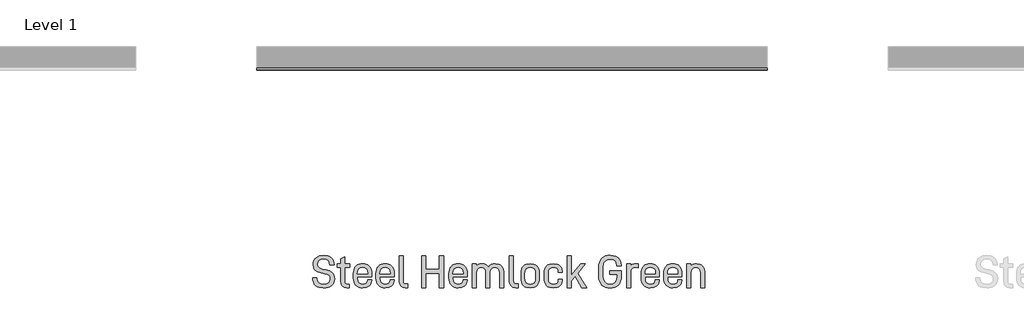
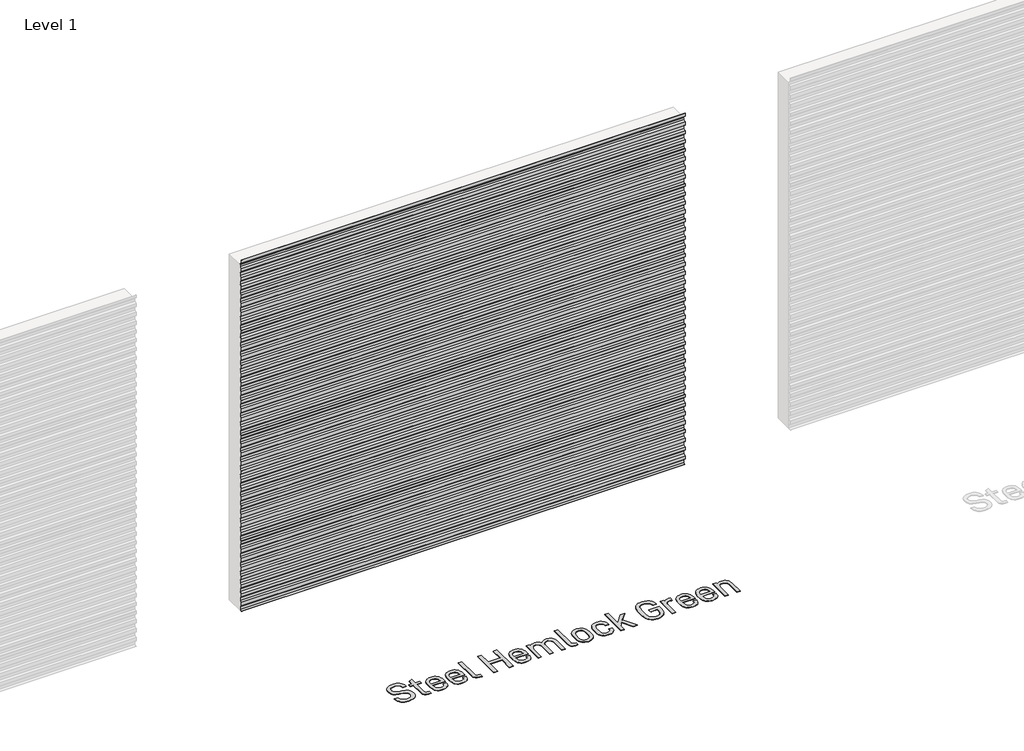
# One storey, part 6 of 9: 2 proxies.
"""IFC4 building model written with IfcOpenShell, lengths in millimetres."""

from ifc_helpers import new_model, si_unit, frame, origin, origin_with_axes, place, context, project, spatial, polyline, outline, extrude, element, save

model = new_model("IFC4")

# Units and contexts
model_context = context("Model", 3, world=origin())
ifc_project = project(units=[si_unit("LENGTHUNIT", "METRE", prefix="MILLI")], contexts=[model_context])

# Site, building, storey
site = spatial("IfcSite", under=ifc_project)
building = spatial("IfcBuilding", under=site)
storey = spatial("IfcBuildingStorey", under=building, Name="Level 1", Elevation=0.0)

# Proxies
placement = place(None, origin())
element("IfcBuildingElementProxy", 1, Name="600mm Arial 2", ObjectType="600mm Arial 2", at=placement, inside=storey, context=model_context, shape_type="SweptSolid", body=[
    extrude(outline(polyline([(10198.9387436, -19997.657289), (10186.7511948, -19984.0139672), (10177.557079, -19967.4681982), (10171.3563962, -19948.019982), (10168.1491465, -19925.6693185), (10207.5278038, -19925.6693185), (10213.1279802, -19951.3682597), (10226.0707113, -19969.7246463), (10246.355997, -19980.7384782), (10273.9838373, -19984.4097555), (10302.025663, -19981.079675), (10321.9515547, -19971.0894334), (10333.8524983, -19955.2215086), (10337.8194795, -19933.3849149), (10334.7077649, -19913.7865721), (10325.3726211, -19899.5381947), (10309.1225559, -19889.7845162), (10285.9939638, -19883.67027), (10252.5111868, -19878.0655442), (10219.7380991, -19868.4392459), (10195.0809454, -19852.3711523), (10186.1006463, -19841.4937991), (10179.6861469, -19828.5874624), (10174.5545473, -19796.6878384), (10176.2969255, -19777.2168757), (10181.5240602, -19760.002361), (10190.2359512, -19745.0442944), (10202.4325986, -19732.3426757), (10217.1677501, -19722.4070256), (10234.0046737, -19715.3101326), (10273.9838373, -19709.6326183), (10311.1424409, -19715.0007809), (10327.0740557, -19721.7109842), (10341.2405458, -19731.1052687), (10353.6783057, -19743.9615633), (10363.1135338, -19759.8203894), (10369.5462304, -19778.6817472), (10372.9763953, -19800.5456367), (10333.5249494, -19800.5456367), (10328.6572087, -19776.343412), (10317.0383212, -19759.0561086), (10298.6682867, -19748.6837266), (10273.5471054, -19745.226266), (10247.6343476, -19748.5563465), (10229.0004543, -19758.5465881), (10217.4270596, -19774.1597526), (10213.5692614, -19794.5041791), (10216.4626101, -19812.3010029), (10225.1426561, -19825.3665648), (10240.5738489, -19834.9018774), (10262.8471745, -19841.2344896), (10297.1306266, -19847.2031585), (10331.1957127, -19857.1934001), (10356.2350068, -19874.207746), (10365.4382212, -19885.5218311), (10372.0119458, -19898.8648997), (10377.2709254, -19931.6379874), (10375.4739557, -19951.6503157), (10370.0830467, -19969.2515201), (10361.0981982, -19984.4416005), (10348.5194104, -19997.2205571), (10333.1337104, -20007.3472775), (10315.218605, -20014.5806491), (10294.7740942, -20018.9206721), (10271.8001779, -20020.3673465), (10230.8747619, -20014.6898321), (10213.783078, -20007.5929391), (10198.9387436, -19997.657289)])), origin_with_axes(), (0.0, 0.0, 1.0), 5.0),
    extrude(outline(polyline([(10473.8614582, -19958.2058431), (10475.3354282, -19969.2879144), (10479.7573385, -19977.2036796), (10487.1271888, -19981.9531387), (10497.4449793, -19983.5362918), (10518.9176298, -19983.5362918), (10518.9176298, -20017.8197439), (10492.786506, -20017.8197439), (10469.0028161, -20013.8527627), (10450.7874575, -20001.9518191), (10439.4870203, -19983.4089116), (10435.7202079, -19959.5160387), (10435.7202079, -19823.692426), (10401.8734876, -19823.692426), (10401.8734876, -19791.9565765), (10435.7202079, -19791.9565765), (10435.7202079, -19743.9160704), (10473.8614582, -19725.9372749), (10473.8614582, -19791.9565765), (10522.775428, -19791.9565765), (10522.775428, -19823.692426), (10473.8614582, -19823.692426), (10473.8614582, -19958.2058431)])), origin_with_axes(), (0.0, 0.0, 1.0), 5.0),
    extrude(outline(polyline([(10594.7633986, -19923.5584478), (10598.1844649, -19952.9741592), (10608.4476639, -19971.9265028), (10624.9342922, -19982.2169976), (10647.0256461, -19985.6471625), (10666.29644, -19983.0813627), (10680.4356345, -19975.3839635), (10689.1156804, -19963.6104), (10692.0090291, -19947.9426441), (10692.0090291, -19942.410707), (10728.9128724, -19942.410707), (10728.9128724, -19948.8161078), (10723.2353581, -19977.9679604), (10716.1384651, -19990.2783401), (10706.202815, -20001.0783554), (10679.4893821, -20015.5450987), (10644.9147754, -20020.3673465), (10625.9647064, -20018.8683553), (10609.0026774, -20014.3713818), (10594.0286882, -20006.8764259), (10581.0427389, -19996.3834877), (10570.5498007, -19982.7833842), (10563.0548448, -19965.9669324), (10558.5578713, -19945.9341324), (10557.0588801, -19922.684984), (10557.0588801, -19884.9804656), (10558.5555966, -19862.2749574), (10563.0457462, -19842.635671), (10570.5293288, -19826.0626062), (10581.0063445, -19812.5557632), (10593.7898504, -19802.2379727), (10608.5568469, -19794.8681223), (10625.307334, -19790.4462121), (10644.0413116, -19788.972242), (10662.4431911, -19790.4462121), (10679.0708474, -19794.8681223), (10693.9242803, -19802.2379727), (10707.0034901, -19812.5557632), (10717.3212806, -19825.8988318), (10724.691131, -19842.4173051), (10729.1130412, -19862.111183), (10730.5870113, -19884.9804656), (10730.5870113, -19914.9693876), (10594.7633986, -19914.9693876), (10594.7633986, -19923.5584478)]), holes=[polyline([(10608.0109321, -19837.3766913), (10598.0752819, -19855.5010641), (10594.7633986, -19884.1070018), (10692.8824929, -19884.5437337), (10692.8824929, -19881.1226674), (10689.6615953, -19853.8815167), (10679.9989026, -19836.5032276), (10664.3857381, -19827.2226753), (10644.0413116, -19824.1291578), (10623.678688, -19827.4410412), (10608.0109321, -19837.3766913)])]), origin_with_axes(), (0.0, 0.0, 1.0), 5.0),
    extrude(outline(polyline([(10809.0531713, -19923.5584478), (10812.4742376, -19952.9741592), (10822.7374367, -19971.9265028), (10839.2240649, -19982.2169976), (10861.3154188, -19985.6471625), (10880.5862128, -19983.0813627), (10894.7254072, -19975.3839635), (10903.4054532, -19963.6104), (10906.2988018, -19947.9426441), (10906.2988018, -19942.410707), (10943.2026452, -19942.410707), (10943.2026452, -19948.8161078), (10937.5251308, -19977.9679604), (10930.4282379, -19990.2783401), (10920.4925877, -20001.0783554), (10893.7791548, -20015.5450987), (10859.2045481, -20020.3673465), (10840.2544792, -20018.8683553), (10823.2924501, -20014.3713818), (10808.3184609, -20006.8764259), (10795.3325116, -19996.3834877), (10784.8395734, -19982.7833842), (10777.3446175, -19965.9669324), (10772.847644, -19945.9341324), (10771.3486528, -19922.684984), (10771.3486528, -19884.9804656), (10772.8453694, -19862.2749574), (10777.3355189, -19842.635671), (10784.8191016, -19826.0626062), (10795.2961173, -19812.5557632), (10808.0796231, -19802.2379727), (10822.8466196, -19794.8681223), (10839.5971067, -19790.4462121), (10858.3310844, -19788.972242), (10876.7329638, -19790.4462121), (10893.3606201, -19794.8681223), (10908.2140531, -19802.2379727), (10921.2932628, -19812.5557632), (10931.6110534, -19825.8988318), (10938.9809037, -19842.4173051), (10943.4028139, -19862.111183), (10944.876784, -19884.9804656), (10944.876784, -19914.9693876), (10809.0531713, -19914.9693876), (10809.0531713, -19923.5584478)]), holes=[polyline([(10822.3007048, -19837.3766913), (10812.3650547, -19855.5010641), (10809.0531713, -19884.1070018), (10907.1722656, -19884.5437337), (10907.1722656, -19881.1226674), (10903.951368, -19853.8815167), (10894.2886753, -19836.5032276), (10878.6755108, -19827.2226753), (10858.3310844, -19824.1291578), (10837.9684608, -19827.4410412), (10822.3007048, -19837.3766913)])]), origin_with_axes(), (0.0, 0.0, 1.0), 5.0),
    extrude(outline(polyline([(11007.4750193, -20001.9518191), (10996.2291735, -19982.4444621), (10992.4805583, -19956.5317042), (10992.4805583, -19713.4904165), (11030.1850767, -19713.4904165), (11030.1850767, -19954.7847767), (11031.568061, -19968.1960847), (11035.7170138, -19976.6941591), (11042.7047237, -19981.1706608), (11053.331866, -19982.662828), (11075.1684597, -19982.662828), (11075.1684597, -20017.8197439), (11050.3475315, -20017.8197439), (11025.4720119, -20013.8527627), (11007.4750193, -20001.9518191)])), origin_with_axes(), (0.0, 0.0, 1.0), 5.0),
    extrude(outline(polyline([(11413.7812392, -20017.8197439), (11373.96585, -20017.8197439), (11373.96585, -19880.6859355), (11244.1109062, -19880.6859355), (11244.1109062, -20017.8197439), (11204.2227284, -20017.8197439), (11204.2227284, -19713.4904165), (11244.1109062, -19713.4904165), (11244.1109062, -19843.7820922), (11373.96585, -19843.7820922), (11373.96585, -19713.4904165), (11413.7812392, -19713.4904165), (11413.7812392, -20017.8197439)])), origin_with_axes(), (0.0, 0.0, 1.0), 5.0),
    extrude(outline(polyline([(11503.165696, -19923.5584478), (11506.5867623, -19952.9741592), (11516.8499614, -19971.9265028), (11533.3365896, -19982.2169976), (11555.4279435, -19985.6471625), (11574.6987375, -19983.0813627), (11588.8379319, -19975.3839635), (11597.5179779, -19963.6104), (11600.4113265, -19947.9426441), (11600.4113265, -19942.410707), (11637.3151699, -19942.410707), (11637.3151699, -19948.8161078), (11631.6376555, -19977.9679604), (11624.5407626, -19990.2783401), (11614.6051124, -20001.0783554), (11587.8916795, -20015.5450987), (11553.3170728, -20020.3673465), (11534.3670039, -20018.8683553), (11517.4049748, -20014.3713818), (11502.4309856, -20006.8764259), (11489.4450363, -19996.3834877), (11478.9520981, -19982.7833842), (11471.4571422, -19965.9669324), (11466.9601687, -19945.9341324), (11465.4611775, -19922.684984), (11465.4611775, -19884.9804656), (11466.9578941, -19862.2749574), (11471.4480437, -19842.635671), (11478.9316263, -19826.0626062), (11489.408642, -19812.5557632), (11502.1921478, -19802.2379727), (11516.9591443, -19794.8681223), (11533.7096314, -19790.4462121), (11552.4436091, -19788.972242), (11570.8454885, -19790.4462121), (11587.4731448, -19794.8681223), (11602.3265778, -19802.2379727), (11615.4057875, -19812.5557632), (11625.7235781, -19825.8988318), (11633.0934284, -19842.4173051), (11637.5153387, -19862.111183), (11638.9893087, -19884.9804656), (11638.9893087, -19914.9693876), (11503.165696, -19914.9693876), (11503.165696, -19923.5584478)]), holes=[polyline([(11516.4132295, -19837.3766913), (11506.4775794, -19855.5010641), (11503.165696, -19884.1070018), (11601.2847903, -19884.5437337), (11601.2847903, -19881.1226674), (11598.0638927, -19853.8815167), (11588.4012, -19836.5032276), (11572.7880355, -19827.2226753), (11552.4436091, -19824.1291578), (11532.0809855, -19827.4410412), (11516.4132295, -19837.3766913)])]), origin_with_axes(), (0.0, 0.0, 1.0), 5.0),
    extrude(outline(polyline([(11723.8608695, -19791.9565765), (11723.8608695, -19810.8088357), (11742.2763969, -19797.4885135), (11759.2179541, -19791.4288588), (11778.3067765, -19789.4089739), (11799.9432014, -19791.8655907), (11818.5588975, -19799.235441), (11830.678207, -19808.6615706), (11841.2689549, -19821.5087666), (11853.7203626, -19807.4651073), (11868.8012601, -19797.4339221), (11886.5116475, -19791.4152109), (11906.8515246, -19789.4089739), (11939.3334577, -19794.8681223), (11952.5855405, -19801.6920578), (11963.8450342, -19811.2455676), (11972.8571783, -19822.8280608), (11979.2944242, -19836.6124106), (11984.4442209, -19870.7866797), (11984.4442209, -20017.8197439), (11946.7397024, -20017.8197439), (11946.7397024, -19875.0812098), (11943.7371708, -19852.6987012), (11934.7295759, -19836.9399595), (11920.5903815, -19827.3318582), (11901.3195876, -19824.1291578), (11881.5756674, -19827.3318582), (11867.0361355, -19836.9399595), (11857.7009917, -19853.0444473), (11854.5892771, -19873.8438028), (11854.5892771, -20017.8197439), (11816.4480268, -20017.8197439), (11816.4480268, -19875.0812098), (11813.4454951, -19852.6987012), (11804.4379002, -19836.9399595), (11790.2987058, -19827.3318582), (11771.0279119, -19824.1291578), (11751.8299066, -19827.3318582), (11737.1811917, -19836.9399595), (11727.518499, -19853.3537991), (11724.2976014, -19875.0812098), (11724.2976014, -20017.8197439), (11686.593083, -20017.8197439), (11686.593083, -19791.9565765), (11723.8608695, -19791.9565765)])), origin_with_axes(), (0.0, 0.0, 1.0), 5.0),
    extrude(outline(polyline([(12055.6315163, -20001.9518191), (12044.3856705, -19982.4444621), (12040.6370553, -19956.5317042), (12040.6370553, -19713.4904165), (12078.3415737, -19713.4904165), (12078.3415737, -19954.7847767), (12079.724558, -19968.1960847), (12083.8735108, -19976.6941591), (12090.8612208, -19981.1706608), (12101.488363, -19982.662828), (12123.3249567, -19982.662828), (12123.3249567, -20017.8197439), (12098.5040286, -20017.8197439), (12073.6285089, -20013.8527627), (12055.6315163, -20001.9518191)])), origin_with_axes(), (0.0, 0.0, 1.0), 5.0),
    extrude(outline(polyline([(12174.20422, -19998.0940209), (12163.7272043, -19985.1330927), (12156.2436217, -19968.9603655), (12151.7534721, -19949.5758393), (12150.2567556, -19926.9795141), (12150.2567556, -19882.3600743), (12151.7557468, -19859.9548194), (12156.2527203, -19840.7067719), (12163.7476761, -19824.6159319), (12174.2406143, -19811.6822994), (12187.2265637, -19801.7466493), (12202.2005528, -19794.6497564), (12238.1126509, -19788.972242), (12272.9966093, -19794.6497564), (12287.7226622, -19801.7466493), (12300.6380975, -19811.6822994), (12311.1469582, -19824.4521575), (12318.6532873, -19840.4884059), (12323.1570847, -19859.7910449), (12324.6583505, -19882.3600743), (12324.6583505, -19926.9795141), (12323.1570847, -19949.5485435), (12318.6532873, -19968.8511825), (12311.1469582, -19984.887431), (12300.6380975, -19997.657289), (12287.7226622, -20007.5929391), (12272.9966093, -20014.6898321), (12238.1126509, -20020.3673465), (12201.9730883, -20014.7990151), (12187.0423174, -20007.8386008), (12174.20422, -19998.0940209)]), holes=[polyline([(12273.63351, -19972.399629), (12283.6237516, -19954.1660733), (12286.9538321, -19925.2325866), (12286.9538321, -19884.1070018), (12283.6237516, -19855.5010641), (12273.63351, -19837.3766913), (12258.3478944, -19827.4410412), (12238.1126509, -19824.1291578), (12217.0949295, -19827.4410412), (12201.2088076, -19837.3766913), (12191.2731574, -19855.5010641), (12187.961274, -19884.1070018), (12187.961274, -19925.2325866), (12191.2731574, -19954.1660733), (12201.2088076, -19972.399629), (12217.0949295, -19982.3352791), (12238.1126509, -19985.6471625), (12258.3478944, -19982.3352791), (12273.63351, -19972.399629)])]), origin_with_axes(), (0.0, 0.0, 1.0), 5.0),
    extrude(outline(polyline([(12393.5891979, -19998.0940209), (12382.9211121, -19985.1330927), (12375.3010507, -19968.9603655), (12370.7290139, -19949.5758393), (12369.2050017, -19926.9795141), (12369.2050017, -19882.3600743), (12370.7290139, -19859.9548194), (12375.3010507, -19840.7067719), (12382.9211121, -19824.6159319), (12393.5891979, -19811.6822994), (12406.6138162, -19801.7466493), (12421.667418, -19794.6497564), (12457.861572, -19788.972242), (12493.0184879, -19794.2130245), (12507.3760482, -19800.7640026), (12519.5863435, -19809.9353719), (12529.7130638, -19821.1448234), (12536.9464355, -19834.1739909), (12542.7331328, -19865.6914745), (12542.7331328, -19872.0968753), (12505.9020781, -19872.0968753), (12505.9020781, -19865.6914745), (12502.7903635, -19847.7854677), (12493.4552197, -19835.2658206), (12478.6609275, -19826.9133235), (12459.1717677, -19824.1291578), (12436.8984421, -19827.4410412), (12420.5937855, -19837.3766913), (12410.3305864, -19855.5010641), (12406.9095201, -19884.1070018), (12406.9095201, -19925.2325866), (12410.2214035, -19953.9477073), (12420.1570536, -19972.399629), (12436.6800762, -19982.3352791), (12458.7350358, -19985.6471625), (12478.5517446, -19982.8629968), (12493.4552197, -19974.5104997), (12502.7903635, -19961.9908527), (12505.9020781, -19944.0848458), (12505.9020781, -19937.679445), (12542.7331328, -19937.679445), (12542.7331328, -19943.648114), (12536.9464355, -19975.1655975), (12529.7130638, -19988.1947651), (12519.5863435, -19999.4042165), (12507.2395695, -20008.5755859), (12492.9093049, -20015.126564), (12458.2983039, -20020.3673465), (12421.558235, -20014.7990151), (12406.4773375, -20007.8386008), (12393.5891979, -19998.0940209)])), origin_with_axes(), (0.0, 0.0, 1.0), 5.0),
    extrude(outline(polyline([(12628.0414255, -19950.4902466), (12628.0414255, -20017.8197439), (12590.3369071, -20017.8197439), (12590.3369071, -19713.4904165), (12628.0414255, -19713.4904165), (12628.0414255, -19899.9749266), (12716.3340527, -19791.9565765), (12763.0643631, -19791.9565765), (12688.8927333, -19878.939008), (12773.7642941, -20017.8197439), (12727.9074473, -20017.8197439), (12663.6350732, -19908.1272549), (12628.0414255, -19950.4902466)])), origin_with_axes(), (0.0, 0.0, 1.0), 5.0),
    extrude(outline(polyline([(12918.8320648, -19992.926027), (12905.9029816, -19976.4393988), (12896.6679222, -19956.0949724), (12891.1268866, -19931.8927477), (12889.2798747, -19903.8327248), (12889.2798747, -19827.1134923), (12891.1268866, -19798.8851457), (12896.6679222, -19774.6146817), (12905.9029816, -19754.3021002), (12918.8320648, -19737.9474014), (12934.4634264, -19725.5596838), (12952.678785, -19716.7113141), (12973.4781405, -19711.4022922), (12996.8614929, -19709.6326183), (13026.1771199, -19712.5259669), (13051.6713431, -19721.2060129), (13072.7982475, -19735.2542215), (13089.0119183, -19754.252058), (13098.6200195, -19777.4898332), (13101.8227199, -19803.5299711), (13101.8227199, -19809.4986401), (13062.0073307, -19809.4986401), (13062.0073307, -19803.5299711), (13057.7128006, -19780.0738301), (13044.8292104, -19761.9676545), (13024.1754322, -19750.3942598), (12997.2982248, -19746.5364616), (12967.8006261, -19751.2495264), (12946.2733842, -19765.3887208), (12938.7579565, -19776.7210031), (12933.3897939, -19790.9921269), (12929.0952638, -19828.3508993), (12929.0952638, -19905.5068637), (12933.3806953, -19939.8358086), (12946.2369899, -19964.3564836), (12955.8792108, -19972.9387199), (12967.6641474, -19979.0688886), (12997.662168, -19983.9730236), (13026.0861341, -19979.6784935), (13046.139406, -19966.7949033), (13058.6408559, -19944.3214089), (13062.8080058, -19911.1115894), (13062.8080058, -19892.696062), (12992.1302309, -19892.696062), (12992.1302309, -19857.1024143), (13102.6961836, -19857.1024143), (13102.6961836, -19905.5068637), (13100.899214, -19933.6533231), (13095.5083049, -19957.6781254), (13086.5234564, -19977.5812707), (13073.9446686, -19993.3627589), (13058.2086733, -20005.5594064), (13040.1161456, -20014.2712974), (13019.6670854, -20019.498432), (12996.8614929, -20021.2408102), (12973.4781405, -20019.4711363), (12952.678785, -20014.1621144), (12934.4634264, -20005.3137447), (12918.8320648, -19992.926027)])), origin_with_axes(), (0.0, 0.0, 1.0), 5.0),
    extrude(outline(polyline([(13243.9789448, -19788.972242), (13264.1413996, -19791.0831127), (13264.1413996, -19830.0978268), (13237.573544, -19824.4931011), (13219.2399039, -19828.032449), (13204.5638932, -19838.6504926), (13194.9284962, -19855.0552336), (13191.7166972, -19875.9546735), (13191.7166972, -20017.8197439), (13154.0121788, -20017.8197439), (13154.0121788, -19791.9565765), (13191.2799654, -19791.9565765), (13191.2799654, -19811.6822994), (13208.822029, -19797.4885135), (13224.9265168, -19791.1013099), (13243.9789448, -19788.972242)])), origin_with_axes(), (0.0, 0.0, 1.0), 5.0),
    extrude(outline(polyline([(13329.2872375, -19923.5584478), (13332.7083038, -19952.9741592), (13342.9715029, -19971.9265028), (13359.4581311, -19982.2169976), (13381.549485, -19985.6471625), (13400.820279, -19983.0813627), (13414.9594734, -19975.3839635), (13423.6395194, -19963.6104), (13426.532868, -19947.9426441), (13426.532868, -19942.410707), (13463.4367114, -19942.410707), (13463.4367114, -19948.8161078), (13457.759197, -19977.9679604), (13450.6623041, -19990.2783401), (13440.7266539, -20001.0783554), (13414.013221, -20015.5450987), (13379.4386143, -20020.3673465), (13360.4885454, -20018.8683553), (13343.5265163, -20014.3713818), (13328.5525271, -20006.8764259), (13315.5665778, -19996.3834877), (13305.0736396, -19982.7833842), (13297.5786837, -19965.9669324), (13293.0817102, -19945.9341324), (13291.5827191, -19922.684984), (13291.5827191, -19884.9804656), (13293.0794356, -19862.2749574), (13297.5695852, -19842.635671), (13305.0531678, -19826.0626062), (13315.5301835, -19812.5557632), (13328.3136894, -19802.2379727), (13343.0806858, -19794.8681223), (13359.8311729, -19790.4462121), (13378.5651506, -19788.972242), (13396.96703, -19790.4462121), (13413.5946863, -19794.8681223), (13428.4481193, -19802.2379727), (13441.527329, -19812.5557632), (13451.8451196, -19825.8988318), (13459.2149699, -19842.4173051), (13463.6368802, -19862.111183), (13465.1108502, -19884.9804656), (13465.1108502, -19914.9693876), (13329.2872375, -19914.9693876), (13329.2872375, -19923.5584478)]), holes=[polyline([(13342.534771, -19837.3766913), (13332.5991209, -19855.5010641), (13329.2872375, -19884.1070018), (13427.4063318, -19884.5437337), (13427.4063318, -19881.1226674), (13424.1854342, -19853.8815167), (13414.5227415, -19836.5032276), (13398.909577, -19827.2226753), (13378.5651506, -19824.1291578), (13358.202527, -19827.4410412), (13342.534771, -19837.3766913)])]), origin_with_axes(), (0.0, 0.0, 1.0), 5.0),
    extrude(outline(polyline([(13543.5770102, -19923.5584478), (13546.9980766, -19952.9741592), (13557.2612756, -19971.9265028), (13573.7479038, -19982.2169976), (13595.8392578, -19985.6471625), (13615.1100517, -19983.0813627), (13629.2492461, -19975.3839635), (13637.9292921, -19963.6104), (13640.8226408, -19947.9426441), (13640.8226408, -19942.410707), (13677.7264841, -19942.410707), (13677.7264841, -19948.8161078), (13672.0489697, -19977.9679604), (13664.9520768, -19990.2783401), (13655.0164267, -20001.0783554), (13628.3029937, -20015.5450987), (13593.7283871, -20020.3673465), (13574.7783181, -20018.8683553), (13557.816289, -20014.3713818), (13542.8422998, -20006.8764259), (13529.8563505, -19996.3834877), (13519.3634123, -19982.7833842), (13511.8684565, -19965.9669324), (13507.3714829, -19945.9341324), (13505.8724918, -19922.684984), (13505.8724918, -19884.9804656), (13507.3692083, -19862.2749574), (13511.8593579, -19842.635671), (13519.3429405, -19826.0626062), (13529.8199562, -19812.5557632), (13542.6034621, -19802.2379727), (13557.3704586, -19794.8681223), (13574.1209456, -19790.4462121), (13592.8549233, -19788.972242), (13611.2568028, -19790.4462121), (13627.884459, -19794.8681223), (13642.737892, -19802.2379727), (13655.8171018, -19812.5557632), (13666.1348923, -19825.8988318), (13673.5047427, -19842.4173051), (13677.9266529, -19862.111183), (13679.400623, -19884.9804656), (13679.400623, -19914.9693876), (13543.5770102, -19914.9693876), (13543.5770102, -19923.5584478)]), holes=[polyline([(13556.8245437, -19837.3766913), (13546.8888936, -19855.5010641), (13543.5770102, -19884.1070018), (13641.6961045, -19884.5437337), (13641.6961045, -19881.1226674), (13638.4752069, -19853.8815167), (13628.8125142, -19836.5032276), (13613.1993498, -19827.2226753), (13592.8549233, -19824.1291578), (13572.4922997, -19827.4410412), (13556.8245437, -19837.3766913)])]), origin_with_axes(), (0.0, 0.0, 1.0), 5.0),
    extrude(outline(polyline([(13764.2721838, -19791.9565765), (13764.2721838, -19810.3721038), (13782.6877111, -19797.1245703), (13799.8476343, -19791.337873), (13818.7180907, -19789.4089739), (13851.0544465, -19794.8681223), (13864.1791492, -19801.6920578), (13875.2748683, -19811.2455676), (13883.9048721, -19822.8280608), (13890.0691606, -19836.6124106), (13895.0005913, -19870.7866797), (13895.0005913, -20017.8197439), (13857.2960729, -20017.8197439), (13857.2960729, -19875.0812098), (13854.2935412, -19852.6987012), (13845.2859463, -19836.9399595), (13830.5917385, -19827.3318582), (13811.4028318, -19824.1291578), (13792.2321223, -19827.3318582), (13777.5925059, -19836.9399595), (13767.9298132, -19853.3537991), (13764.7089156, -19875.0812098), (13764.7089156, -20017.8197439), (13727.0043972, -20017.8197439), (13727.0043972, -19791.9565765), (13764.2721838, -19791.9565765)])), origin_with_axes(), (0.0, 0.0, 1.0), 5.0),
])
element("IfcBuildingElementProxy", 2, Name="TitanTek VariPanel HVP 4 : Steel Hemlock Green", ObjectType="TitanTek VariPanel HVP 4 : Steel Hemlock Green", at=placement, inside=storey, context=model_context, shape_type="SweptSolid", body=[
    extrude(outline(polyline([(-17945.79831, 375.054257), (-17921.3904975, 350.0739785), (-17921.3904975, 318.3239785), (-17945.79831, 308.9546971), (-17945.79831, 272.0693579), (-17921.3904975, 247.0890794), (-17921.3904975, 215.3390794), (-17945.79831, 205.9697981), (-17945.79831, 169.0844589), (-17921.3904975, 144.1041804), (-17921.3904975, 112.3541804), (-17945.79831, 102.984899), (-17945.79831, 66.0995599), (-17921.3904975, 41.1192814), (-17921.3904975, 9.3692814), (-17945.79831, 0.0), (-17945.79831, 1.0627767), (-17922.382685, 10.051193), (-17922.382685, 40.7150244), (-17946.7904975, 65.6953029), (-17946.7904975, 103.6668106), (-17922.382685, 113.036092), (-17922.382685, 143.6999234), (-17946.7904975, 168.6802019), (-17946.7904975, 206.6517096), (-17922.382685, 216.020991), (-17922.382685, 246.6848225), (-17946.7904975, 271.665101), (-17946.7904975, 309.6366087), (-17922.382685, 319.00589), (-17922.382685, 349.6697215), (-17946.7904975, 374.65), (-17946.7904975, 407.0819116), (-17945.79831, 407.4627767), (-17945.79831, 375.054257)])), frame((9639.4102183, 0.0, 0.0), z_axis=(1.0, 0.0, 0.0), x_axis=(0.0, 1.0, 0.0)), (0.0, 0.0, 1.0), 4850.0),
    extrude(outline(polyline([(-17945.79831, 781.454257), (-17921.3904975, 756.4739785), (-17921.3904975, 724.7239785), (-17945.79831, 715.3546971), (-17945.79831, 678.4693579), (-17921.3904975, 653.4890794), (-17921.3904975, 621.7390794), (-17945.79831, 612.3697981), (-17945.79831, 575.4844589), (-17921.3904975, 550.5041804), (-17921.3904975, 518.7541804), (-17945.79831, 509.384899), (-17945.79831, 472.4995599), (-17921.3904975, 447.5192814), (-17921.3904975, 415.7692814), (-17945.79831, 406.4), (-17945.79831, 407.4627767), (-17922.382685, 416.451193), (-17922.382685, 447.1150244), (-17946.7904975, 472.0953029), (-17946.7904975, 510.0668106), (-17922.382685, 519.436092), (-17922.382685, 550.0999234), (-17946.7904975, 575.0802019), (-17946.7904975, 613.0517096), (-17922.382685, 622.420991), (-17922.382685, 653.0848225), (-17946.7904975, 678.065101), (-17946.7904975, 716.0366087), (-17922.382685, 725.40589), (-17922.382685, 756.0697215), (-17946.7904975, 781.05), (-17946.7904975, 813.4819116), (-17945.79831, 813.8627767), (-17945.79831, 781.454257)])), frame((9639.4102183, 0.0, 0.0), z_axis=(1.0, 0.0, 0.0), x_axis=(0.0, 1.0, 0.0)), (0.0, 0.0, 1.0), 4850.0),
    extrude(outline(polyline([(-17945.79831, 1187.854257), (-17921.3904975, 1162.8739785), (-17921.3904975, 1131.1239785), (-17945.79831, 1121.7546971), (-17945.79831, 1084.8693579), (-17921.3904975, 1059.8890794), (-17921.3904975, 1028.1390794), (-17945.79831, 1018.7697981), (-17945.79831, 981.8844589), (-17921.3904975, 956.9041804), (-17921.3904975, 925.1541804), (-17945.79831, 915.784899), (-17945.79831, 878.8995599), (-17921.3904975, 853.9192814), (-17921.3904975, 822.1692814), (-17945.79831, 812.8), (-17945.79831, 813.8627767), (-17922.382685, 822.851193), (-17922.382685, 853.5150244), (-17946.7904975, 878.4953029), (-17946.7904975, 916.4668106), (-17922.382685, 925.836092), (-17922.382685, 956.4999234), (-17946.7904975, 981.4802019), (-17946.7904975, 1019.4517096), (-17922.382685, 1028.820991), (-17922.382685, 1059.4848225), (-17946.7904975, 1084.465101), (-17946.7904975, 1122.4366087), (-17922.382685, 1131.80589), (-17922.382685, 1162.4697215), (-17946.7904975, 1187.45), (-17946.7904975, 1219.8819116), (-17945.79831, 1220.2627767), (-17945.79831, 1187.854257)])), frame((9639.4102183, 0.0, 0.0), z_axis=(1.0, 0.0, 0.0), x_axis=(0.0, 1.0, 0.0)), (0.0, 0.0, 1.0), 4850.0),
    extrude(outline(polyline([(-17945.79831, 1594.254257), (-17921.3904975, 1569.2739785), (-17921.3904975, 1537.5239785), (-17945.79831, 1528.1546971), (-17945.79831, 1491.2693579), (-17921.3904975, 1466.2890794), (-17921.3904975, 1434.5390794), (-17945.79831, 1425.1697981), (-17945.79831, 1388.2844589), (-17921.3904975, 1363.3041804), (-17921.3904975, 1331.5541804), (-17945.79831, 1322.184899), (-17945.79831, 1285.2995599), (-17921.3904975, 1260.3192814), (-17921.3904975, 1228.5692814), (-17945.79831, 1219.2), (-17945.79831, 1220.2627767), (-17922.382685, 1229.251193), (-17922.382685, 1259.9150244), (-17946.7904975, 1284.8953029), (-17946.7904975, 1322.8668106), (-17922.382685, 1332.236092), (-17922.382685, 1362.8999234), (-17946.7904975, 1387.8802019), (-17946.7904975, 1425.8517096), (-17922.382685, 1435.220991), (-17922.382685, 1465.8848225), (-17946.7904975, 1490.865101), (-17946.7904975, 1528.8366087), (-17922.382685, 1538.20589), (-17922.382685, 1568.8697215), (-17946.7904975, 1593.85), (-17946.7904975, 1626.2819116), (-17945.79831, 1626.6627767), (-17945.79831, 1594.254257)])), frame((9639.4102183, 0.0, 0.0), z_axis=(1.0, 0.0, 0.0), x_axis=(0.0, 1.0, 0.0)), (0.0, 0.0, 1.0), 4850.0),
    extrude(outline(polyline([(-17945.79831, 2000.654257), (-17921.3904975, 1975.6739785), (-17921.3904975, 1943.9239785), (-17945.79831, 1934.5546971), (-17945.79831, 1897.6693579), (-17921.3904975, 1872.6890794), (-17921.3904975, 1840.9390794), (-17945.79831, 1831.5697981), (-17945.79831, 1794.6844589), (-17921.3904975, 1769.7041804), (-17921.3904975, 1737.9541804), (-17945.79831, 1728.584899), (-17945.79831, 1691.6995599), (-17921.3904975, 1666.7192814), (-17921.3904975, 1634.9692814), (-17945.79831, 1625.6), (-17945.79831, 1626.6627767), (-17922.382685, 1635.651193), (-17922.382685, 1666.3150244), (-17946.7904975, 1691.2953029), (-17946.7904975, 1729.2668106), (-17922.382685, 1738.636092), (-17922.382685, 1769.2999234), (-17946.7904975, 1794.2802019), (-17946.7904975, 1832.2517096), (-17922.382685, 1841.620991), (-17922.382685, 1872.2848225), (-17946.7904975, 1897.265101), (-17946.7904975, 1935.2366087), (-17922.382685, 1944.60589), (-17922.382685, 1975.2697215), (-17946.7904975, 2000.25), (-17946.7904975, 2032.6819116), (-17945.79831, 2033.0627767), (-17945.79831, 2000.654257)])), frame((9639.4102183, 0.0, 0.0), z_axis=(1.0, 0.0, 0.0), x_axis=(0.0, 1.0, 0.0)), (0.0, 0.0, 1.0), 4850.0),
    extrude(outline(polyline([(-17945.79831, 2407.054257), (-17921.3904975, 2382.0739785), (-17921.3904975, 2350.3239785), (-17945.79831, 2340.9546971), (-17945.79831, 2304.0693579), (-17921.3904975, 2279.0890794), (-17921.3904975, 2247.3390794), (-17945.79831, 2237.9697981), (-17945.79831, 2201.0844589), (-17921.3904975, 2176.1041804), (-17921.3904975, 2144.3541804), (-17945.79831, 2134.984899), (-17945.79831, 2098.0995599), (-17921.3904975, 2073.1192814), (-17921.3904975, 2041.3692814), (-17945.79831, 2032.0), (-17945.79831, 2033.0627767), (-17922.382685, 2042.051193), (-17922.382685, 2072.7150244), (-17946.7904975, 2097.6953029), (-17946.7904975, 2135.6668106), (-17922.382685, 2145.036092), (-17922.382685, 2175.6999234), (-17946.7904975, 2200.6802019), (-17946.7904975, 2238.6517096), (-17922.382685, 2248.020991), (-17922.382685, 2278.6848225), (-17946.7904975, 2303.665101), (-17946.7904975, 2341.6366087), (-17922.382685, 2351.00589), (-17922.382685, 2381.6697215), (-17946.7904975, 2406.65), (-17946.7904975, 2439.0819116), (-17945.79831, 2439.4627767), (-17945.79831, 2407.054257)])), frame((9639.4102183, 0.0, 0.0), z_axis=(1.0, 0.0, 0.0), x_axis=(0.0, 1.0, 0.0)), (0.0, 0.0, 1.0), 4850.0),
    extrude(outline(polyline([(-17945.79831, 2813.454257), (-17921.3904975, 2788.4739785), (-17921.3904975, 2756.7239785), (-17945.79831, 2747.3546971), (-17945.79831, 2710.4693579), (-17921.3904975, 2685.4890794), (-17921.3904975, 2653.7390794), (-17945.79831, 2644.3697981), (-17945.79831, 2607.4844589), (-17921.3904975, 2582.5041804), (-17921.3904975, 2550.7541804), (-17945.79831, 2541.384899), (-17945.79831, 2504.4995599), (-17921.3904975, 2479.5192814), (-17921.3904975, 2447.7692814), (-17945.79831, 2438.4), (-17945.79831, 2439.4627767), (-17922.382685, 2448.451193), (-17922.382685, 2479.1150244), (-17946.7904975, 2504.0953029), (-17946.7904975, 2542.0668106), (-17922.382685, 2551.436092), (-17922.382685, 2582.0999234), (-17946.7904975, 2607.0802019), (-17946.7904975, 2645.0517096), (-17922.382685, 2654.420991), (-17922.382685, 2685.0848225), (-17946.7904975, 2710.065101), (-17946.7904975, 2748.0366087), (-17922.382685, 2757.40589), (-17922.382685, 2788.0697215), (-17946.7904975, 2813.05), (-17946.7904975, 2845.4819116), (-17945.79831, 2845.8627767), (-17945.79831, 2813.454257)])), frame((9639.4102183, 0.0, 0.0), z_axis=(1.0, 0.0, 0.0), x_axis=(0.0, 1.0, 0.0)), (0.0, 0.0, 1.0), 4850.0),
    extrude(outline(polyline([(-17945.79831, 3219.854257), (-17921.3904975, 3194.8739785), (-17921.3904975, 3163.1239785), (-17945.79831, 3153.7546971), (-17945.79831, 3116.8693579), (-17921.3904975, 3091.8890794), (-17921.3904975, 3060.1390794), (-17945.79831, 3050.7697981), (-17945.79831, 3013.8844589), (-17921.3904975, 2988.9041804), (-17921.3904975, 2957.1541804), (-17945.79831, 2947.784899), (-17945.79831, 2910.8995599), (-17921.3904975, 2885.9192814), (-17921.3904975, 2854.1692814), (-17945.79831, 2844.8), (-17945.79831, 2845.8627767), (-17922.382685, 2854.851193), (-17922.382685, 2885.5150244), (-17946.7904975, 2910.4953029), (-17946.7904975, 2948.4668106), (-17922.382685, 2957.836092), (-17922.382685, 2988.4999234), (-17946.7904975, 3013.4802019), (-17946.7904975, 3051.4517096), (-17922.382685, 3060.820991), (-17922.382685, 3091.4848225), (-17946.7904975, 3116.465101), (-17946.7904975, 3154.4366087), (-17922.382685, 3163.80589), (-17922.382685, 3194.4697215), (-17946.7904975, 3219.45), (-17946.7904975, 3251.8819116), (-17945.79831, 3252.2627767), (-17945.79831, 3219.854257)])), frame((9639.4102183, 0.0, 0.0), z_axis=(1.0, 0.0, 0.0), x_axis=(0.0, 1.0, 0.0)), (0.0, 0.0, 1.0), 4850.0),
    extrude(outline(polyline([(-17945.79831, 3626.254257), (-17921.3904975, 3601.2739785), (-17921.3904975, 3569.5239785), (-17945.79831, 3560.1546971), (-17945.79831, 3523.2693579), (-17921.3904975, 3498.2890794), (-17921.3904975, 3466.5390794), (-17945.79831, 3457.1697981), (-17945.79831, 3420.2844589), (-17921.3904975, 3395.3041804), (-17921.3904975, 3363.5541804), (-17945.79831, 3354.184899), (-17945.79831, 3317.2995599), (-17921.3904975, 3292.3192814), (-17921.3904975, 3260.5692814), (-17945.79831, 3251.2), (-17945.79831, 3252.2627767), (-17922.382685, 3261.251193), (-17922.382685, 3291.9150244), (-17946.7904975, 3316.8953029), (-17946.7904975, 3354.8668106), (-17922.382685, 3364.236092), (-17922.382685, 3394.8999234), (-17946.7904975, 3419.8802019), (-17946.7904975, 3457.8517096), (-17922.382685, 3467.220991), (-17922.382685, 3497.8848225), (-17946.7904975, 3522.865101), (-17946.7904975, 3560.8366087), (-17922.382685, 3570.20589), (-17922.382685, 3600.8697215), (-17946.7904975, 3625.85), (-17946.7904975, 3658.2819116), (-17945.79831, 3658.6627767), (-17945.79831, 3626.254257)])), frame((9639.4102183, 0.0, 0.0), z_axis=(1.0, 0.0, 0.0), x_axis=(0.0, 1.0, 0.0)), (0.0, 0.0, 1.0), 4850.0),
    extrude(outline(polyline([(-17945.79831, 4032.654257), (-17921.3904975, 4007.6739785), (-17921.3904975, 3975.9239785), (-17945.79831, 3966.5546971), (-17945.79831, 3929.6693579), (-17921.3904975, 3904.6890794), (-17921.3904975, 3872.9390794), (-17945.79831, 3863.5697981), (-17945.79831, 3826.6844589), (-17921.3904975, 3801.7041804), (-17921.3904975, 3769.9541804), (-17945.79831, 3760.584899), (-17945.79831, 3723.6995599), (-17921.3904975, 3698.7192814), (-17921.3904975, 3666.9692814), (-17945.79831, 3657.6), (-17945.79831, 3658.6627767), (-17922.382685, 3667.651193), (-17922.382685, 3698.3150244), (-17946.7904975, 3723.2953029), (-17946.7904975, 3761.2668106), (-17922.382685, 3770.636092), (-17922.382685, 3801.2999234), (-17946.7904975, 3826.2802019), (-17946.7904975, 3864.2517096), (-17922.382685, 3873.620991), (-17922.382685, 3904.2848225), (-17946.7904975, 3929.265101), (-17946.7904975, 3967.2366087), (-17922.382685, 3976.60589), (-17922.382685, 4007.2697215), (-17946.7904975, 4032.25), (-17946.7904975, 4064.6819116), (-17945.79831, 4065.0627767), (-17945.79831, 4032.654257)])), frame((9639.4102183, 0.0, 0.0), z_axis=(1.0, 0.0, 0.0), x_axis=(0.0, 1.0, 0.0)), (0.0, 0.0, 1.0), 4850.0),
])

save(model, "model.ifc")
